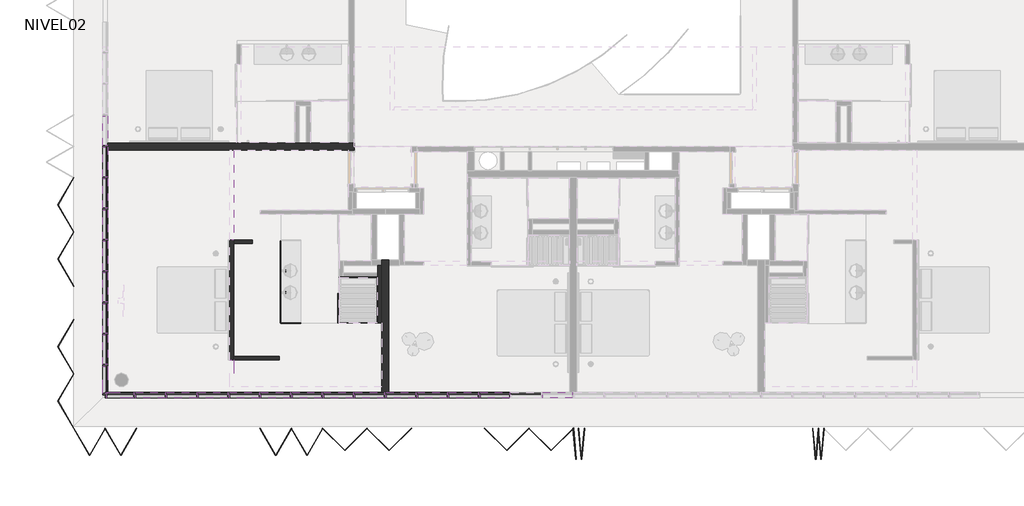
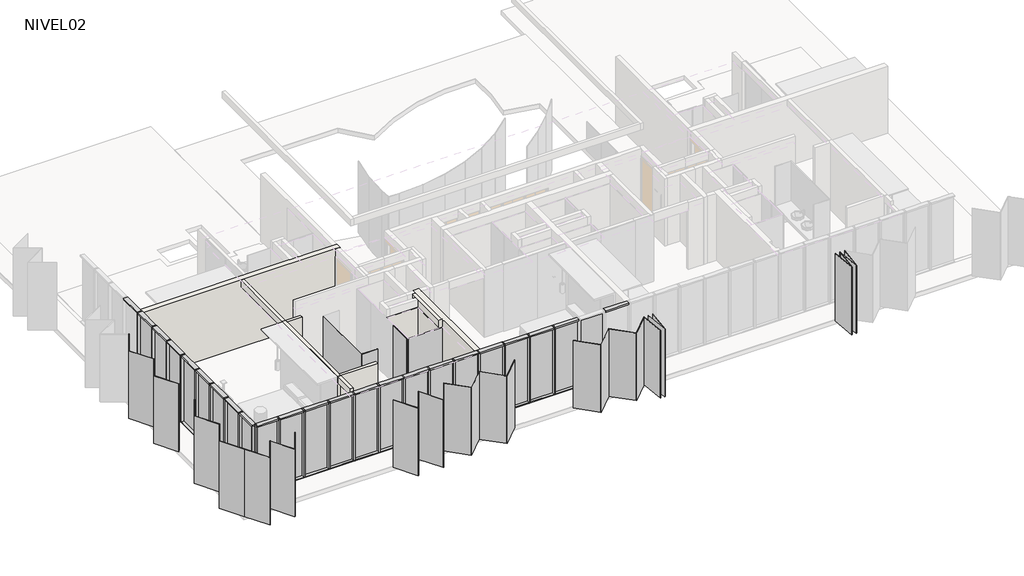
# One storey, part 1 of 9: 66 members, 30 plates, 12 walls.
"""IFC4 building model written with IfcOpenShell, lengths in millimetres."""

from ifc_helpers import new_model, si_unit, frame, origin, place, context, project, spatial, polyline, outline, extrude, faceted_brep, transform, mapped, element, save
from components import rectangular_mullion_50_x_150mm_324a6438, rectangular_mullion_50_x_150mm_d09437e2, rectangular_mullion_50_x_150mm_5dc04e1f, rectangular_mullion_50_x_150mm_33c2bde1, rectangular_mullion_50_x_150mm_da4cfd0d, folding_hd_folding_hd_45_d1567fec, folding_hd_folding_hd_60_f2b0c3be, folding_hd_folding_hd_85_a0ccf00b, plate_e70df11b, panel_corredera_cr_panel_corredera_0e7ff004, system_panel_cr_shower_eca2249b, system_panel_cr_shower_cd40b9b4, system_panel_cr_shower_8ff19449, system_panel_glazed_8b1c2311, system_panel_glazed_b40d16d2, system_panel_glazed_24c908d7, system_panel_glazed_6ccc6dc1

model = new_model("IFC4")

# Units and contexts
model_context = context("Model", 3, world=origin())
ifc_project = project(units=[si_unit("LENGTHUNIT", "METRE", prefix="MILLI")], contexts=[model_context])

# Site, building, storey
site = spatial("IfcSite", under=ifc_project)
building = spatial("IfcBuilding", under=site)
storey = spatial("IfcBuildingStorey", under=building, Name="NIVEL02", Elevation=2500.0)

# Members
placement = place(None, origin())
rectangular_mullion_50_x_150mm_shape = rectangular_mullion_50_x_150mm_324a6438(model_context)
element("IfcMember", 1, ObjectType="Rectangular Mullion : 50 x 150mm", at=placement, inside=storey, context=model_context, shape_type="MappedRepresentation", body=[
    mapped(rectangular_mullion_50_x_150mm_shape, transform((-20633.5934748, -241.0860763, 5050.0), x_axis=(0.0, 0.0, 1.0), y_axis=(-1.0, 0.0, 0.0), z_axis=(0.0, -1.0, 0.0))),
])
element("IfcMember", 2, ObjectType="Rectangular Mullion : 50 x 150mm", at=placement, inside=storey, context=model_context, shape_type="MappedRepresentation", body=[
    mapped(rectangular_mullion_50_x_150mm_shape, transform((-20633.5934748, -1141.0860763, 5050.0), x_axis=(0.0, 0.0, 1.0), y_axis=(-1.0, 0.0, 0.0), z_axis=(0.0, -1.0, 0.0))),
])
element("IfcMember", 3, ObjectType="Rectangular Mullion : 50 x 150mm", at=placement, inside=storey, context=model_context, shape_type="MappedRepresentation", body=[
    mapped(rectangular_mullion_50_x_150mm_shape, transform((-20633.5934748, -2041.0860763, 5050.0), x_axis=(0.0, 0.0, 1.0), y_axis=(-1.0, 0.0, 0.0), z_axis=(0.0, -1.0, 0.0))),
])
element("IfcMember", 4, ObjectType="Rectangular Mullion : 50 x 150mm", at=placement, inside=storey, context=model_context, shape_type="MappedRepresentation", body=[
    mapped(rectangular_mullion_50_x_150mm_shape, transform((-20633.5934748, -2941.0860763, 5050.0), x_axis=(0.0, 0.0, 1.0), y_axis=(-1.0, 0.0, 0.0), z_axis=(0.0, -1.0, 0.0))),
])
element("IfcMember", 5, ObjectType="Rectangular Mullion : 50 x 150mm", at=placement, inside=storey, context=model_context, shape_type="MappedRepresentation", body=[
    mapped(rectangular_mullion_50_x_150mm_shape, transform((-20633.5934748, -3841.0860763, 5050.0), x_axis=(0.0, 0.0, 1.0), y_axis=(-1.0, 0.0, 0.0), z_axis=(0.0, -1.0, 0.0))),
])
element("IfcMember", 6, ObjectType="Rectangular Mullion : 50 x 150mm", at=placement, inside=storey, context=model_context, shape_type="MappedRepresentation", body=[
    mapped(rectangular_mullion_50_x_150mm_shape, transform((-20633.5934748, -4741.0860763, 5050.0), x_axis=(0.0, 0.0, 1.0), y_axis=(-1.0, 0.0, 0.0), z_axis=(0.0, -1.0, 0.0))),
])
element("IfcMember", 7, ObjectType="Rectangular Mullion : 50 x 150mm", at=placement, inside=storey, context=model_context, shape_type="MappedRepresentation", body=[
    mapped(rectangular_mullion_50_x_150mm_shape, transform((-20633.5934748, -5641.0860763, 5050.0), x_axis=(0.0, 0.0, 1.0), y_axis=(-1.0, 0.0, 0.0), z_axis=(0.0, -1.0, 0.0))),
])
element("IfcMember", 8, ObjectType="Rectangular Mullion : 50 x 150mm", at=placement, inside=storey, context=model_context, shape_type="MappedRepresentation", body=[
    mapped(rectangular_mullion_50_x_150mm_shape, transform((-20633.5934748, -6541.0860763, 5050.0), x_axis=(0.0, 0.0, 1.0), y_axis=(-1.0, 0.0, 0.0), z_axis=(0.0, -1.0, 0.0))),
])
element("IfcMember", 9, ObjectType="Rectangular Mullion : 50 x 150mm", at=placement, inside=storey, context=model_context, shape_type="MappedRepresentation", body=[
    mapped(rectangular_mullion_50_x_150mm_shape, transform((-20633.5934748, -291.0860763, 2480.0), x_axis=(0.0, 0.0, -1.0), y_axis=(-1.0, 0.0, 0.0), z_axis=(0.0, 1.0, 0.0))),
])
element("IfcMember", 10, ObjectType="Rectangular Mullion : 50 x 150mm", at=placement, inside=storey, context=model_context, shape_type="MappedRepresentation", body=[
    mapped(rectangular_mullion_50_x_150mm_shape, transform((-20633.5934748, -1191.0860763, 2480.0), x_axis=(0.0, 0.0, -1.0), y_axis=(-1.0, 0.0, 0.0), z_axis=(0.0, 1.0, 0.0))),
])
element("IfcMember", 11, ObjectType="Rectangular Mullion : 50 x 150mm", at=placement, inside=storey, context=model_context, shape_type="MappedRepresentation", body=[
    mapped(rectangular_mullion_50_x_150mm_shape, transform((-20633.5934748, -2091.0860763, 2480.0), x_axis=(0.0, 0.0, -1.0), y_axis=(-1.0, 0.0, 0.0), z_axis=(0.0, 1.0, 0.0))),
])
element("IfcMember", 12, ObjectType="Rectangular Mullion : 50 x 150mm", at=placement, inside=storey, context=model_context, shape_type="MappedRepresentation", body=[
    mapped(rectangular_mullion_50_x_150mm_shape, transform((-20633.5934748, -2991.0860763, 2480.0), x_axis=(0.0, 0.0, -1.0), y_axis=(-1.0, 0.0, 0.0), z_axis=(0.0, 1.0, 0.0))),
])
element("IfcMember", 13, ObjectType="Rectangular Mullion : 50 x 150mm", at=placement, inside=storey, context=model_context, shape_type="MappedRepresentation", body=[
    mapped(rectangular_mullion_50_x_150mm_shape, transform((-20633.5934748, -3891.0860763, 2480.0), x_axis=(0.0, 0.0, -1.0), y_axis=(-1.0, 0.0, 0.0), z_axis=(0.0, 1.0, 0.0))),
])
element("IfcMember", 14, ObjectType="Rectangular Mullion : 50 x 150mm", at=placement, inside=storey, context=model_context, shape_type="MappedRepresentation", body=[
    mapped(rectangular_mullion_50_x_150mm_shape, transform((-20633.5934748, -4791.0860763, 2480.0), x_axis=(0.0, 0.0, -1.0), y_axis=(-1.0, 0.0, 0.0), z_axis=(0.0, 1.0, 0.0))),
])
element("IfcMember", 15, ObjectType="Rectangular Mullion : 50 x 150mm", at=placement, inside=storey, context=model_context, shape_type="MappedRepresentation", body=[
    mapped(rectangular_mullion_50_x_150mm_shape, transform((-20633.5934748, -5691.0860763, 2480.0), x_axis=(0.0, 0.0, -1.0), y_axis=(-1.0, 0.0, 0.0), z_axis=(0.0, 1.0, 0.0))),
])
element("IfcMember", 16, ObjectType="Rectangular Mullion : 50 x 150mm", at=placement, inside=storey, context=model_context, shape_type="MappedRepresentation", body=[
    mapped(rectangular_mullion_50_x_150mm_shape, transform((-8058.5934748, -7416.0860759, 5050.0), x_axis=(0.0, 0.0, 1.0), y_axis=(0.0, 1.0, 0.0), z_axis=(-1.0, 0.0, 0.0))),
])
element("IfcMember", 17, ObjectType="Rectangular Mullion : 50 x 150mm", at=placement, inside=storey, context=model_context, shape_type="MappedRepresentation", body=[
    mapped(rectangular_mullion_50_x_150mm_shape, transform((-9858.5934748, -7416.0860759, 5050.0), x_axis=(0.0, 0.0, 1.0), y_axis=(0.0, 1.0, 0.0), z_axis=(-1.0, 0.0, 0.0))),
])
element("IfcMember", 18, ObjectType="Rectangular Mullion : 50 x 150mm", at=placement, inside=storey, context=model_context, shape_type="MappedRepresentation", body=[
    mapped(rectangular_mullion_50_x_150mm_shape, transform((-10758.5934748, -7416.0860759, 5050.0), x_axis=(0.0, 0.0, 1.0), y_axis=(0.0, 1.0, 0.0), z_axis=(-1.0, 0.0, 0.0))),
])
element("IfcMember", 19, ObjectType="Rectangular Mullion : 50 x 150mm", at=placement, inside=storey, context=model_context, shape_type="MappedRepresentation", body=[
    mapped(rectangular_mullion_50_x_150mm_shape, transform((-11658.5934748, -7416.0860759, 5050.0), x_axis=(0.0, 0.0, 1.0), y_axis=(0.0, 1.0, 0.0), z_axis=(-1.0, 0.0, 0.0))),
])
element("IfcMember", 20, ObjectType="Rectangular Mullion : 50 x 150mm", at=placement, inside=storey, context=model_context, shape_type="MappedRepresentation", body=[
    mapped(rectangular_mullion_50_x_150mm_shape, transform((-12558.5934748, -7416.0860759, 5050.0), x_axis=(0.0, 0.0, 1.0), y_axis=(0.0, 1.0, 0.0), z_axis=(-1.0, 0.0, 0.0))),
])
element("IfcMember", 21, ObjectType="Rectangular Mullion : 50 x 150mm", at=placement, inside=storey, context=model_context, shape_type="MappedRepresentation", body=[
    mapped(rectangular_mullion_50_x_150mm_shape, transform((-13458.5934748, -7416.0860759, 5050.0), x_axis=(0.0, 0.0, 1.0), y_axis=(0.0, 1.0, 0.0), z_axis=(-1.0, 0.0, 0.0))),
])
element("IfcMember", 22, ObjectType="Rectangular Mullion : 50 x 150mm", at=placement, inside=storey, context=model_context, shape_type="MappedRepresentation", body=[
    mapped(rectangular_mullion_50_x_150mm_shape, transform((-14358.5934748, -7416.0860759, 5050.0), x_axis=(0.0, 0.0, 1.0), y_axis=(0.0, 1.0, 0.0), z_axis=(-1.0, 0.0, 0.0))),
])
element("IfcMember", 23, ObjectType="Rectangular Mullion : 50 x 150mm", at=placement, inside=storey, context=model_context, shape_type="MappedRepresentation", body=[
    mapped(rectangular_mullion_50_x_150mm_shape, transform((-15258.5934748, -7416.0860759, 5050.0), x_axis=(0.0, 0.0, 1.0), y_axis=(0.0, 1.0, 0.0), z_axis=(-1.0, 0.0, 0.0))),
])
element("IfcMember", 24, ObjectType="Rectangular Mullion : 50 x 150mm", at=placement, inside=storey, context=model_context, shape_type="MappedRepresentation", body=[
    mapped(rectangular_mullion_50_x_150mm_shape, transform((-16158.5934748, -7416.0860759, 5050.0), x_axis=(0.0, 0.0, 1.0), y_axis=(0.0, 1.0, 0.0), z_axis=(-1.0, 0.0, 0.0))),
])
element("IfcMember", 25, ObjectType="Rectangular Mullion : 50 x 150mm", at=placement, inside=storey, context=model_context, shape_type="MappedRepresentation", body=[
    mapped(rectangular_mullion_50_x_150mm_shape, transform((-17058.5934748, -7416.0860759, 5050.0), x_axis=(0.0, 0.0, 1.0), y_axis=(0.0, 1.0, 0.0), z_axis=(-1.0, 0.0, 0.0))),
])
element("IfcMember", 26, ObjectType="Rectangular Mullion : 50 x 150mm", at=placement, inside=storey, context=model_context, shape_type="MappedRepresentation", body=[
    mapped(rectangular_mullion_50_x_150mm_shape, transform((-17958.5934748, -7416.0860759, 5050.0), x_axis=(0.0, 0.0, 1.0), y_axis=(0.0, 1.0, 0.0), z_axis=(-1.0, 0.0, 0.0))),
])
element("IfcMember", 27, ObjectType="Rectangular Mullion : 50 x 150mm", at=placement, inside=storey, context=model_context, shape_type="MappedRepresentation", body=[
    mapped(rectangular_mullion_50_x_150mm_shape, transform((-18858.5934748, -7416.0860759, 5050.0), x_axis=(0.0, 0.0, 1.0), y_axis=(0.0, 1.0, 0.0), z_axis=(-1.0, 0.0, 0.0))),
])
element("IfcMember", 28, ObjectType="Rectangular Mullion : 50 x 150mm", at=placement, inside=storey, context=model_context, shape_type="MappedRepresentation", body=[
    mapped(rectangular_mullion_50_x_150mm_shape, transform((-19758.5934748, -7416.0860759, 5050.0), x_axis=(0.0, 0.0, 1.0), y_axis=(0.0, 1.0, 0.0), z_axis=(-1.0, 0.0, 0.0))),
])
element("IfcMember", 29, ObjectType="Rectangular Mullion : 50 x 150mm", at=placement, inside=storey, context=model_context, shape_type="MappedRepresentation", body=[
    mapped(rectangular_mullion_50_x_150mm_shape, transform((-9008.5934748, -7416.0860759, 2480.0), x_axis=(0.0, 0.0, -1.0), y_axis=(0.0, 1.0, 0.0), z_axis=(1.0, 0.0, 0.0))),
])
element("IfcMember", 30, ObjectType="Rectangular Mullion : 50 x 150mm", at=placement, inside=storey, context=model_context, shape_type="MappedRepresentation", body=[
    mapped(rectangular_mullion_50_x_150mm_shape, transform((-9908.5934748, -7416.0860759, 2480.0), x_axis=(0.0, 0.0, -1.0), y_axis=(0.0, 1.0, 0.0), z_axis=(1.0, 0.0, 0.0))),
])
element("IfcMember", 31, ObjectType="Rectangular Mullion : 50 x 150mm", at=placement, inside=storey, context=model_context, shape_type="MappedRepresentation", body=[
    mapped(rectangular_mullion_50_x_150mm_shape, transform((-10808.5934748, -7416.0860759, 2480.0), x_axis=(0.0, 0.0, -1.0), y_axis=(0.0, 1.0, 0.0), z_axis=(1.0, 0.0, 0.0))),
])
element("IfcMember", 32, ObjectType="Rectangular Mullion : 50 x 150mm", at=placement, inside=storey, context=model_context, shape_type="MappedRepresentation", body=[
    mapped(rectangular_mullion_50_x_150mm_shape, transform((-11708.5934748, -7416.0860759, 2480.0), x_axis=(0.0, 0.0, -1.0), y_axis=(0.0, 1.0, 0.0), z_axis=(1.0, 0.0, 0.0))),
])
element("IfcMember", 33, ObjectType="Rectangular Mullion : 50 x 150mm", at=placement, inside=storey, context=model_context, shape_type="MappedRepresentation", body=[
    mapped(rectangular_mullion_50_x_150mm_shape, transform((-12608.5934748, -7416.0860759, 2480.0), x_axis=(0.0, 0.0, -1.0), y_axis=(0.0, 1.0, 0.0), z_axis=(1.0, 0.0, 0.0))),
])
element("IfcMember", 34, ObjectType="Rectangular Mullion : 50 x 150mm", at=placement, inside=storey, context=model_context, shape_type="MappedRepresentation", body=[
    mapped(rectangular_mullion_50_x_150mm_shape, transform((-13508.5934748, -7416.0860759, 2480.0), x_axis=(0.0, 0.0, -1.0), y_axis=(0.0, 1.0, 0.0), z_axis=(1.0, 0.0, 0.0))),
])
element("IfcMember", 35, ObjectType="Rectangular Mullion : 50 x 150mm", at=placement, inside=storey, context=model_context, shape_type="MappedRepresentation", body=[
    mapped(rectangular_mullion_50_x_150mm_shape, transform((-14408.5934748, -7416.0860759, 2480.0), x_axis=(0.0, 0.0, -1.0), y_axis=(0.0, 1.0, 0.0), z_axis=(1.0, 0.0, 0.0))),
])
element("IfcMember", 36, ObjectType="Rectangular Mullion : 50 x 150mm", at=placement, inside=storey, context=model_context, shape_type="MappedRepresentation", body=[
    mapped(rectangular_mullion_50_x_150mm_shape, transform((-15308.5934748, -7416.0860759, 2480.0), x_axis=(0.0, 0.0, -1.0), y_axis=(0.0, 1.0, 0.0), z_axis=(1.0, 0.0, 0.0))),
])
element("IfcMember", 37, ObjectType="Rectangular Mullion : 50 x 150mm", at=placement, inside=storey, context=model_context, shape_type="MappedRepresentation", body=[
    mapped(rectangular_mullion_50_x_150mm_shape, transform((-16208.5934748, -7416.0860759, 2480.0), x_axis=(0.0, 0.0, -1.0), y_axis=(0.0, 1.0, 0.0), z_axis=(1.0, 0.0, 0.0))),
])
element("IfcMember", 38, ObjectType="Rectangular Mullion : 50 x 150mm", at=placement, inside=storey, context=model_context, shape_type="MappedRepresentation", body=[
    mapped(rectangular_mullion_50_x_150mm_shape, transform((-17108.5934748, -7416.0860759, 2480.0), x_axis=(0.0, 0.0, -1.0), y_axis=(0.0, 1.0, 0.0), z_axis=(1.0, 0.0, 0.0))),
])
element("IfcMember", 39, ObjectType="Rectangular Mullion : 50 x 150mm", at=placement, inside=storey, context=model_context, shape_type="MappedRepresentation", body=[
    mapped(rectangular_mullion_50_x_150mm_shape, transform((-18008.5934748, -7416.0860759, 2480.0), x_axis=(0.0, 0.0, -1.0), y_axis=(0.0, 1.0, 0.0), z_axis=(1.0, 0.0, 0.0))),
])
element("IfcMember", 40, ObjectType="Rectangular Mullion : 50 x 150mm", at=placement, inside=storey, context=model_context, shape_type="MappedRepresentation", body=[
    mapped(rectangular_mullion_50_x_150mm_shape, transform((-18908.5934748, -7416.0860759, 2480.0), x_axis=(0.0, 0.0, -1.0), y_axis=(0.0, 1.0, 0.0), z_axis=(1.0, 0.0, 0.0))),
])
rectangular_mullion_50_x_150mm_2_shape = rectangular_mullion_50_x_150mm_d09437e2(model_context)
element("IfcMember", 41, ObjectType="Rectangular Mullion : 50 x 150mm", at=placement, inside=storey, context=model_context, shape_type="MappedRepresentation", body=[
    mapped(rectangular_mullion_50_x_150mm_2_shape, transform((-20633.5934748, -7366.0860759, 5050.0), x_axis=(0.0, 0.0, 1.0), y_axis=(-1.0, 0.0, 0.0), z_axis=(0.0, -1.0, 0.0))),
])
element("IfcMember", 42, ObjectType="Rectangular Mullion : 50 x 150mm", at=placement, inside=storey, context=model_context, shape_type="MappedRepresentation", body=[
    mapped(rectangular_mullion_50_x_150mm_2_shape, transform((-20633.5934748, -6591.0860763, 2480.0), x_axis=(0.0, 0.0, -1.0), y_axis=(-1.0, 0.0, 0.0), z_axis=(0.0, 1.0, 0.0))),
])
rectangular_mullion_50_x_150mm_3_shape = rectangular_mullion_50_x_150mm_5dc04e1f(model_context)
element("IfcMember", 43, ObjectType="Rectangular Mullion : 50 x 150mm", at=placement, inside=storey, context=model_context, shape_type="MappedRepresentation", body=[
    mapped(rectangular_mullion_50_x_150mm_3_shape, transform((-20583.5934748, -7416.0860759, 5050.0), x_axis=(0.0, 0.0, 1.0), y_axis=(0.0, 1.0, 0.0), z_axis=(-1.0, 0.0, 0.0))),
])
element("IfcMember", 44, ObjectType="Rectangular Mullion : 50 x 150mm", at=placement, inside=storey, context=model_context, shape_type="MappedRepresentation", body=[
    mapped(rectangular_mullion_50_x_150mm_3_shape, transform((-19808.5934748, -7416.0860759, 2480.0), x_axis=(0.0, 0.0, -1.0), y_axis=(0.0, 1.0, 0.0), z_axis=(1.0, 0.0, 0.0))),
])
rectangular_mullion_50_x_150mm_4_shape = rectangular_mullion_50_x_150mm_33c2bde1(model_context)
element("IfcMember", 45, ObjectType="Rectangular Mullion : 50 x 150mm", at=placement, inside=storey, context=model_context, shape_type="MappedRepresentation", body=[
    mapped(rectangular_mullion_50_x_150mm_4_shape, transform((-20633.5934748, -266.0860763, 2480.0), x_axis=(0.0, -1.0, 0.0), y_axis=(-1.0, 0.0, 0.0), z_axis=(0.0, 0.0, -1.0))),
])
element("IfcMember", 46, ObjectType="Rectangular Mullion : 50 x 150mm", at=placement, inside=storey, context=model_context, shape_type="MappedRepresentation", body=[
    mapped(rectangular_mullion_50_x_150mm_4_shape, transform((-20633.5934748, -1166.0860763, 2480.0), x_axis=(0.0, -1.0, 0.0), y_axis=(-1.0, 0.0, 0.0), z_axis=(0.0, 0.0, -1.0))),
])
element("IfcMember", 47, ObjectType="Rectangular Mullion : 50 x 150mm", at=placement, inside=storey, context=model_context, shape_type="MappedRepresentation", body=[
    mapped(rectangular_mullion_50_x_150mm_4_shape, transform((-20633.5934748, -2066.0860763, 2480.0), x_axis=(0.0, -1.0, 0.0), y_axis=(-1.0, 0.0, 0.0), z_axis=(0.0, 0.0, -1.0))),
])
element("IfcMember", 48, ObjectType="Rectangular Mullion : 50 x 150mm", at=placement, inside=storey, context=model_context, shape_type="MappedRepresentation", body=[
    mapped(rectangular_mullion_50_x_150mm_4_shape, transform((-20633.5934748, -2966.0860763, 2480.0), x_axis=(0.0, -1.0, 0.0), y_axis=(-1.0, 0.0, 0.0), z_axis=(0.0, 0.0, -1.0))),
])
element("IfcMember", 49, ObjectType="Rectangular Mullion : 50 x 150mm", at=placement, inside=storey, context=model_context, shape_type="MappedRepresentation", body=[
    mapped(rectangular_mullion_50_x_150mm_4_shape, transform((-20633.5934748, -3866.0860763, 2480.0), x_axis=(0.0, -1.0, 0.0), y_axis=(-1.0, 0.0, 0.0), z_axis=(0.0, 0.0, -1.0))),
])
element("IfcMember", 50, ObjectType="Rectangular Mullion : 50 x 150mm", at=placement, inside=storey, context=model_context, shape_type="MappedRepresentation", body=[
    mapped(rectangular_mullion_50_x_150mm_4_shape, transform((-20633.5934748, -4766.0860763, 2480.0), x_axis=(0.0, -1.0, 0.0), y_axis=(-1.0, 0.0, 0.0), z_axis=(0.0, 0.0, -1.0))),
])
element("IfcMember", 51, ObjectType="Rectangular Mullion : 50 x 150mm", at=placement, inside=storey, context=model_context, shape_type="MappedRepresentation", body=[
    mapped(rectangular_mullion_50_x_150mm_4_shape, transform((-20633.5934748, -5666.0860763, 2480.0), x_axis=(0.0, -1.0, 0.0), y_axis=(-1.0, 0.0, 0.0), z_axis=(0.0, 0.0, -1.0))),
])
element("IfcMember", 52, ObjectType="Rectangular Mullion : 50 x 150mm", at=placement, inside=storey, context=model_context, shape_type="MappedRepresentation", body=[
    mapped(rectangular_mullion_50_x_150mm_4_shape, transform((-20633.5934748, -6566.0860763, 2480.0), x_axis=(0.0, -1.0, 0.0), y_axis=(-1.0, 0.0, 0.0), z_axis=(0.0, 0.0, -1.0))),
])
rectangular_mullion_50_x_150mm_5_shape = rectangular_mullion_50_x_150mm_da4cfd0d(model_context)
element("IfcMember", 53, ObjectType="Rectangular Mullion : 50 x 150mm", at=placement, inside=storey, context=model_context, shape_type="MappedRepresentation", body=[
    mapped(rectangular_mullion_50_x_150mm_5_shape, transform((-20633.5934748, -7416.0860759, 2480.0), x_axis=(0.0, -1.0, 0.0), y_axis=(-1.0, 0.0, 0.0), z_axis=(0.0, 0.0, -1.0))),
])
element("IfcMember", 54, ObjectType="Rectangular Mullion : 50 x 150mm", at=placement, inside=storey, context=model_context, shape_type="MappedRepresentation", body=[
    mapped(rectangular_mullion_50_x_150mm_4_shape, transform((-9883.5934748, -7416.0860759, 2480.0), x_axis=(-1.0, 0.0, 0.0), y_axis=(0.0, 1.0, 0.0), z_axis=(0.0, 0.0, -1.0))),
])
element("IfcMember", 55, ObjectType="Rectangular Mullion : 50 x 150mm", at=placement, inside=storey, context=model_context, shape_type="MappedRepresentation", body=[
    mapped(rectangular_mullion_50_x_150mm_4_shape, transform((-10783.5934748, -7416.0860759, 2480.0), x_axis=(-1.0, 0.0, 0.0), y_axis=(0.0, 1.0, 0.0), z_axis=(0.0, 0.0, -1.0))),
])
element("IfcMember", 56, ObjectType="Rectangular Mullion : 50 x 150mm", at=placement, inside=storey, context=model_context, shape_type="MappedRepresentation", body=[
    mapped(rectangular_mullion_50_x_150mm_4_shape, transform((-11683.5934748, -7416.0860759, 2480.0), x_axis=(-1.0, 0.0, 0.0), y_axis=(0.0, 1.0, 0.0), z_axis=(0.0, 0.0, -1.0))),
])
element("IfcMember", 57, ObjectType="Rectangular Mullion : 50 x 150mm", at=placement, inside=storey, context=model_context, shape_type="MappedRepresentation", body=[
    mapped(rectangular_mullion_50_x_150mm_4_shape, transform((-12583.5934748, -7416.0860759, 2480.0), x_axis=(-1.0, 0.0, 0.0), y_axis=(0.0, 1.0, 0.0), z_axis=(0.0, 0.0, -1.0))),
])
element("IfcMember", 58, ObjectType="Rectangular Mullion : 50 x 150mm", at=placement, inside=storey, context=model_context, shape_type="MappedRepresentation", body=[
    mapped(rectangular_mullion_50_x_150mm_4_shape, transform((-13483.5934748, -7416.0860759, 2480.0), x_axis=(-1.0, 0.0, 0.0), y_axis=(0.0, 1.0, 0.0), z_axis=(0.0, 0.0, -1.0))),
])
element("IfcMember", 59, ObjectType="Rectangular Mullion : 50 x 150mm", at=placement, inside=storey, context=model_context, shape_type="MappedRepresentation", body=[
    mapped(rectangular_mullion_50_x_150mm_4_shape, transform((-14383.5934748, -7416.0860759, 2480.0), x_axis=(-1.0, 0.0, 0.0), y_axis=(0.0, 1.0, 0.0), z_axis=(0.0, 0.0, -1.0))),
])
element("IfcMember", 60, ObjectType="Rectangular Mullion : 50 x 150mm", at=placement, inside=storey, context=model_context, shape_type="MappedRepresentation", body=[
    mapped(rectangular_mullion_50_x_150mm_4_shape, transform((-15283.5934748, -7416.0860759, 2480.0), x_axis=(-1.0, 0.0, 0.0), y_axis=(0.0, 1.0, 0.0), z_axis=(0.0, 0.0, -1.0))),
])
element("IfcMember", 61, ObjectType="Rectangular Mullion : 50 x 150mm", at=placement, inside=storey, context=model_context, shape_type="MappedRepresentation", body=[
    mapped(rectangular_mullion_50_x_150mm_4_shape, transform((-16183.5934748, -7416.0860759, 2480.0), x_axis=(-1.0, 0.0, 0.0), y_axis=(0.0, 1.0, 0.0), z_axis=(0.0, 0.0, -1.0))),
])
element("IfcMember", 62, ObjectType="Rectangular Mullion : 50 x 150mm", at=placement, inside=storey, context=model_context, shape_type="MappedRepresentation", body=[
    mapped(rectangular_mullion_50_x_150mm_4_shape, transform((-17083.5934748, -7416.0860759, 2480.0), x_axis=(-1.0, 0.0, 0.0), y_axis=(0.0, 1.0, 0.0), z_axis=(0.0, 0.0, -1.0))),
])
element("IfcMember", 63, ObjectType="Rectangular Mullion : 50 x 150mm", at=placement, inside=storey, context=model_context, shape_type="MappedRepresentation", body=[
    mapped(rectangular_mullion_50_x_150mm_4_shape, transform((-17983.5934748, -7416.0860759, 2480.0), x_axis=(-1.0, 0.0, 0.0), y_axis=(0.0, 1.0, 0.0), z_axis=(0.0, 0.0, -1.0))),
])
element("IfcMember", 64, ObjectType="Rectangular Mullion : 50 x 150mm", at=placement, inside=storey, context=model_context, shape_type="MappedRepresentation", body=[
    mapped(rectangular_mullion_50_x_150mm_4_shape, transform((-18883.5934748, -7416.0860759, 2480.0), x_axis=(-1.0, 0.0, 0.0), y_axis=(0.0, 1.0, 0.0), z_axis=(0.0, 0.0, -1.0))),
])
element("IfcMember", 65, ObjectType="Rectangular Mullion : 50 x 150mm", at=placement, inside=storey, context=model_context, shape_type="MappedRepresentation", body=[
    mapped(rectangular_mullion_50_x_150mm_4_shape, transform((-19783.5934748, -7416.0860759, 2480.0), x_axis=(-1.0, 0.0, 0.0), y_axis=(0.0, 1.0, 0.0), z_axis=(0.0, 0.0, -1.0))),
])
element("IfcMember", 66, ObjectType="Rectangular Mullion : 50 x 150mm", at=placement, inside=storey, context=model_context, shape_type="MappedRepresentation", body=[
    mapped(rectangular_mullion_50_x_150mm_5_shape, transform((-20633.5934748, -7416.0860759, 2480.0), x_axis=(-1.0, 0.0, 0.0), y_axis=(0.0, 1.0, 0.0), z_axis=(0.0, 0.0, -1.0))),
])

# Plates
folding_hd_folding_hd_45_shape = folding_hd_folding_hd_45_d1567fec(model_context)
element("IfcPlate", 67, ObjectType="FOLDING HD : FOLDING HD 45", at=placement, inside=storey, context=model_context, shape_type="MappedRepresentation", body=[
    mapped(folding_hd_folding_hd_45_shape, transform((-10783.5934748, -8366.0860759, 2480.0), x_axis=(-1.0, 0.0, 0.0), y_axis=(0.0, -1.0, 0.0), z_axis=(0.0, 0.0, 1.0))),
])
folding_hd_folding_hd_60_shape = folding_hd_folding_hd_60_f2b0c3be(model_context)
element("IfcPlate", 68, ObjectType="FOLDING HD : FOLDING HD 60", at=placement, inside=storey, context=model_context, shape_type="MappedRepresentation", body=[
    mapped(folding_hd_folding_hd_60_shape, transform((-17958.5934748, -8366.0860759, 2480.0), x_axis=(-1.0, 0.0, 0.0), y_axis=(0.0, -1.0, 0.0), z_axis=(0.0, 0.0, 1.0))),
])
folding_hd_folding_hd_85_shape = folding_hd_folding_hd_85_a0ccf00b(model_context)
element("IfcPlate", 69, ObjectType="FOLDING HD : FOLDING HD 85", at=placement, inside=storey, context=model_context, shape_type="MappedRepresentation", body=[
    mapped(folding_hd_folding_hd_85_shape, transform((-3583.5934748, -8366.0860759, 2480.0), x_axis=(-1.0, 0.0, 0.0), y_axis=(0.0, -1.0, 0.0), z_axis=(0.0, 0.0, 1.0))),
])
plate_shape = plate_e70df11b(model_context)
element("IfcPlate", 70, ObjectType="FOLDING HD : FOLDING HD-90_30\"", at=placement, inside=storey, context=model_context, shape_type="MappedRepresentation", body=[
    mapped(plate_shape, transform((-21533.5934748, -4766.0860759, 2480.0), x_axis=(0.0, -1.0, 0.0), y_axis=(1.0, 0.0, 0.0), z_axis=(0.0, 0.0, 1.0))),
])
panel_corredera_cr_panel_corredera_shape = panel_corredera_cr_panel_corredera_0e7ff004(model_context)
element("IfcPlate", 71, ObjectType="PANEL CORREDERA : CR_PANEL CORREDERA", at=placement, inside=storey, context=model_context, shape_type="MappedRepresentation", body=[
    mapped(panel_corredera_cr_panel_corredera_shape, transform((-13913.6434748, -4991.5697221, 2500.0), x_axis=(0.0, 1.0, 0.0), y_axis=(-1.0, 0.0, 0.0), z_axis=(0.0, 0.0, 1.0))),
])
system_panel_cr_shower_shape = system_panel_cr_shower_eca2249b(model_context)
element("IfcPlate", 72, ObjectType="System Panel : CR-SHOWER", at=placement, inside=storey, context=model_context, shape_type="MappedRepresentation", body=[
    mapped(system_panel_cr_shower_shape, transform((-13298.6184748, -5336.1362189, 2500.0), x_axis=(-1.0, 0.0, 0.0), y_axis=(0.0, -1.0, 0.0), z_axis=(0.0, 0.0, 1.0))),
])
system_panel_cr_shower_2_shape = system_panel_cr_shower_cd40b9b4(model_context)
element("IfcPlate", 73, ObjectType="System Panel : CR-SHOWER", at=placement, inside=storey, context=model_context, shape_type="MappedRepresentation", body=[
    mapped(system_panel_cr_shower_2_shape, transform((-15593.5934748, -4164.8462541, 2500.0), x_axis=(0.0, 1.0, 0.0), y_axis=(-1.0, 0.0, 0.0), z_axis=(0.0, 0.0, 1.0))),
])
system_panel_cr_shower_3_shape = system_panel_cr_shower_8ff19449(model_context)
element("IfcPlate", 74, ObjectType="System Panel : CR-SHOWER", at=placement, inside=storey, context=model_context, shape_type="MappedRepresentation", body=[
    mapped(system_panel_cr_shower_3_shape, transform((-15303.5934748, -5348.5862189, 2500.0), x_axis=(-1.0, 0.0, 0.0), y_axis=(0.0, -1.0, 0.0), z_axis=(0.0, 0.0, 1.0))),
])
system_panel_glazed_shape = system_panel_glazed_8b1c2311(model_context)
element("IfcPlate", 75, ObjectType="System Panel : Glazed", at=placement, inside=storey, context=model_context, shape_type="MappedRepresentation", body=[
    mapped(system_panel_glazed_shape, transform((-20633.5934748, -716.0860763, 2530.0), x_axis=(0.0, -1.0, 0.0), y_axis=(1.0, 0.0, 0.0), z_axis=(0.0, 0.0, 1.0))),
])
element("IfcPlate", 76, ObjectType="System Panel : Glazed", at=placement, inside=storey, context=model_context, shape_type="MappedRepresentation", body=[
    mapped(system_panel_glazed_shape, transform((-20633.5934748, -1616.0860763, 2530.0), x_axis=(0.0, -1.0, 0.0), y_axis=(1.0, 0.0, 0.0), z_axis=(0.0, 0.0, 1.0))),
])
element("IfcPlate", 77, ObjectType="System Panel : Glazed", at=placement, inside=storey, context=model_context, shape_type="MappedRepresentation", body=[
    mapped(system_panel_glazed_shape, transform((-20633.5934748, -2516.0860763, 2530.0), x_axis=(0.0, -1.0, 0.0), y_axis=(1.0, 0.0, 0.0), z_axis=(0.0, 0.0, 1.0))),
])
element("IfcPlate", 78, ObjectType="System Panel : Glazed", at=placement, inside=storey, context=model_context, shape_type="MappedRepresentation", body=[
    mapped(system_panel_glazed_shape, transform((-20633.5934748, -3416.0860763, 2530.0), x_axis=(0.0, -1.0, 0.0), y_axis=(1.0, 0.0, 0.0), z_axis=(0.0, 0.0, 1.0))),
])
element("IfcPlate", 79, ObjectType="System Panel : Glazed", at=placement, inside=storey, context=model_context, shape_type="MappedRepresentation", body=[
    mapped(system_panel_glazed_shape, transform((-20633.5934748, -4316.0860763, 2530.0), x_axis=(0.0, -1.0, 0.0), y_axis=(1.0, 0.0, 0.0), z_axis=(0.0, 0.0, 1.0))),
])
element("IfcPlate", 80, ObjectType="System Panel : Glazed", at=placement, inside=storey, context=model_context, shape_type="MappedRepresentation", body=[
    mapped(system_panel_glazed_shape, transform((-20633.5934748, -5216.0860763, 2530.0), x_axis=(0.0, -1.0, 0.0), y_axis=(1.0, 0.0, 0.0), z_axis=(0.0, 0.0, 1.0))),
])
element("IfcPlate", 81, ObjectType="System Panel : Glazed", at=placement, inside=storey, context=model_context, shape_type="MappedRepresentation", body=[
    mapped(system_panel_glazed_shape, transform((-20633.5934748, -6116.0860763, 2530.0), x_axis=(0.0, -1.0, 0.0), y_axis=(1.0, 0.0, 0.0), z_axis=(0.0, 0.0, 1.0))),
])
system_panel_glazed_2_shape = system_panel_glazed_b40d16d2(model_context)
element("IfcPlate", 82, ObjectType="System Panel : Glazed", at=placement, inside=storey, context=model_context, shape_type="MappedRepresentation", body=[
    mapped(system_panel_glazed_2_shape, transform((-20633.5934748, -6978.5860761, 2530.0), x_axis=(0.0, -1.0, 0.0), y_axis=(1.0, 0.0, 0.0), z_axis=(0.0, 0.0, 1.0))),
])
system_panel_glazed_3_shape = system_panel_glazed_24c908d7(model_context)
element("IfcPlate", 83, ObjectType="System Panel : Glazed", at=placement, inside=storey, context=model_context, shape_type="MappedRepresentation", body=[
    mapped(system_panel_glazed_3_shape, transform((-20196.0934748, -7416.0860759, 2530.0), x_axis=(-1.0, 0.0, 0.0), y_axis=(0.0, -1.0, 0.0), z_axis=(0.0, 0.0, 1.0))),
])
system_panel_glazed_4_shape = system_panel_glazed_6ccc6dc1(model_context)
element("IfcPlate", 84, ObjectType="System Panel : Glazed", at=placement, inside=storey, context=model_context, shape_type="MappedRepresentation", body=[
    mapped(system_panel_glazed_4_shape, transform((-8533.5934748, -7416.0860759, 2530.0), x_axis=(-1.0, 0.0, 0.0), y_axis=(0.0, -1.0, 0.0), z_axis=(0.0, 0.0, 1.0))),
])
element("IfcPlate", 85, ObjectType="System Panel : Glazed", at=placement, inside=storey, context=model_context, shape_type="MappedRepresentation", body=[
    mapped(system_panel_glazed_4_shape, transform((-9433.5934748, -7416.0860759, 2530.0), x_axis=(-1.0, 0.0, 0.0), y_axis=(0.0, -1.0, 0.0), z_axis=(0.0, 0.0, 1.0))),
])
element("IfcPlate", 86, ObjectType="System Panel : Glazed", at=placement, inside=storey, context=model_context, shape_type="MappedRepresentation", body=[
    mapped(system_panel_glazed_4_shape, transform((-10333.5934748, -7416.0860759, 2530.0), x_axis=(-1.0, 0.0, 0.0), y_axis=(0.0, -1.0, 0.0), z_axis=(0.0, 0.0, 1.0))),
])
element("IfcPlate", 87, ObjectType="System Panel : Glazed", at=placement, inside=storey, context=model_context, shape_type="MappedRepresentation", body=[
    mapped(system_panel_glazed_4_shape, transform((-11233.5934748, -7416.0860759, 2530.0), x_axis=(-1.0, 0.0, 0.0), y_axis=(0.0, -1.0, 0.0), z_axis=(0.0, 0.0, 1.0))),
])
element("IfcPlate", 88, ObjectType="System Panel : Glazed", at=placement, inside=storey, context=model_context, shape_type="MappedRepresentation", body=[
    mapped(system_panel_glazed_4_shape, transform((-12133.5934748, -7416.0860759, 2530.0), x_axis=(-1.0, 0.0, 0.0), y_axis=(0.0, -1.0, 0.0), z_axis=(0.0, 0.0, 1.0))),
])
element("IfcPlate", 89, ObjectType="System Panel : Glazed", at=placement, inside=storey, context=model_context, shape_type="MappedRepresentation", body=[
    mapped(system_panel_glazed_4_shape, transform((-13033.5934748, -7416.0860759, 2530.0), x_axis=(-1.0, 0.0, 0.0), y_axis=(0.0, -1.0, 0.0), z_axis=(0.0, 0.0, 1.0))),
])
element("IfcPlate", 90, ObjectType="System Panel : Glazed", at=placement, inside=storey, context=model_context, shape_type="MappedRepresentation", body=[
    mapped(system_panel_glazed_4_shape, transform((-13933.5934748, -7416.0860759, 2530.0), x_axis=(-1.0, 0.0, 0.0), y_axis=(0.0, -1.0, 0.0), z_axis=(0.0, 0.0, 1.0))),
])
element("IfcPlate", 91, ObjectType="System Panel : Glazed", at=placement, inside=storey, context=model_context, shape_type="MappedRepresentation", body=[
    mapped(system_panel_glazed_4_shape, transform((-14833.5934748, -7416.0860759, 2530.0), x_axis=(-1.0, 0.0, 0.0), y_axis=(0.0, -1.0, 0.0), z_axis=(0.0, 0.0, 1.0))),
])
element("IfcPlate", 92, ObjectType="System Panel : Glazed", at=placement, inside=storey, context=model_context, shape_type="MappedRepresentation", body=[
    mapped(system_panel_glazed_4_shape, transform((-15733.5934748, -7416.0860759, 2530.0), x_axis=(-1.0, 0.0, 0.0), y_axis=(0.0, -1.0, 0.0), z_axis=(0.0, 0.0, 1.0))),
])
element("IfcPlate", 93, ObjectType="System Panel : Glazed", at=placement, inside=storey, context=model_context, shape_type="MappedRepresentation", body=[
    mapped(system_panel_glazed_4_shape, transform((-16633.5934748, -7416.0860759, 2530.0), x_axis=(-1.0, 0.0, 0.0), y_axis=(0.0, -1.0, 0.0), z_axis=(0.0, 0.0, 1.0))),
])
element("IfcPlate", 94, ObjectType="System Panel : Glazed", at=placement, inside=storey, context=model_context, shape_type="MappedRepresentation", body=[
    mapped(system_panel_glazed_4_shape, transform((-17533.5934748, -7416.0860759, 2530.0), x_axis=(-1.0, 0.0, 0.0), y_axis=(0.0, -1.0, 0.0), z_axis=(0.0, 0.0, 1.0))),
])
element("IfcPlate", 95, ObjectType="System Panel : Glazed", at=placement, inside=storey, context=model_context, shape_type="MappedRepresentation", body=[
    mapped(system_panel_glazed_4_shape, transform((-18433.5934748, -7416.0860759, 2530.0), x_axis=(-1.0, 0.0, 0.0), y_axis=(0.0, -1.0, 0.0), z_axis=(0.0, 0.0, 1.0))),
])
element("IfcPlate", 96, ObjectType="System Panel : Glazed", at=placement, inside=storey, context=model_context, shape_type="MappedRepresentation", body=[
    mapped(system_panel_glazed_4_shape, transform((-19333.5934748, -7416.0860759, 2530.0), x_axis=(-1.0, 0.0, 0.0), y_axis=(0.0, -1.0, 0.0), z_axis=(0.0, 0.0, 1.0))),
])

# Walls
element("IfcWall", 97, ObjectType="SCV.TI.A.110.090.143.47.1", at=placement, inside=storey, context=model_context, shape_type="SweptSolid", body=[
    extrude(outline(polyline([(-16943.5934748, -2951.0658633), (-16402.4831576, -2951.0658633), (-16402.4831576, -3061.0658633), (-16943.5934748, -3061.0658633), (-16943.5934748, -2951.0658633)])), frame((0.0, 0.0, 2480.0), z_axis=(0.0, 0.0, 1.0), x_axis=(1.0, 0.0, 0.0)), (0.0, 0.0, 1.0), 2570.0),
])
element("IfcWall", 98, ObjectType="SCV.TI.A.110.090.143.47.1", at=placement, inside=storey, context=model_context, shape_type="Brep", body=[
    faceted_brep([(-16943.5934748, -6411.0658633, 5050.0), (-16943.5934748, -6411.0658633, 4750.0), (-16943.5934748, -6411.0658633, 2480.0), (-16943.5934748, -6301.0658633, 2480.0), (-16943.5934748, -3061.0658633, 2480.0), (-16943.5934748, -2951.0658633, 2480.0), (-16943.5934748, -2951.0658633, 4750.0), (-16943.5934748, -2951.0658633, 5050.0), (-16943.5934748, -3061.0658633, 5050.0), (-16943.5934748, -6301.0658633, 5050.0), (-17053.5934748, -6411.0658633, 2480.0), (-17053.5934748, -6411.0658633, 4750.0), (-17053.5934748, -6411.0658633, 5050.0), (-17053.5934748, -2951.0658633, 5050.0), (-17053.5934748, -2951.0658633, 4750.0), (-17053.5934748, -2951.0658633, 2480.0)], [[[0, 1, 2, 3, 4, 5, 6, 7, 8, 9]], [[10, 11, 12, 13, 14, 15]], [[5, 4, 3, 2, 10, 15]], [[0, 9, 8, 7, 13, 12]], [[5, 15, 14, 13, 7, 6]], [[0, 12, 11, 10, 2, 1]]]),
])
element("IfcWall", 99, ObjectType="SCV.TI.A.110.090.143.47.1", at=placement, inside=storey, context=model_context, shape_type="SweptSolid", body=[
    extrude(outline(polyline([(-16943.5934748, -6301.0658633), (-15624.9331576, -6301.0658633), (-15624.9331576, -6411.0658633), (-16943.5934748, -6411.0658633), (-16943.5934748, -6301.0658633)])), frame((0.0, 0.0, 2480.0), z_axis=(0.0, 0.0, 1.0), x_axis=(1.0, 0.0, 0.0)), (0.0, 0.0, 1.0), 2570.0),
])
element("IfcWall", 100, ObjectType="REV-PORCELANATO_60*60", at=placement, inside=storey, context=model_context, shape_type="Brep", body=[
    faceted_brep([(-12803.5934748, -5336.1362189, 2500.0), (-12803.5934748, -4026.0862189, 2500.0), (-12803.5934748, -4026.0862189, 4760.0), (-12803.5934748, -5336.1362189, 4760.0), (-12813.5934748, -5336.1362189, 2500.0), (-12813.5934748, -5336.1362189, 4760.0), (-12813.5934748, -4036.0862189, 4760.0), (-12813.5934748, -4026.0862189, 4760.0), (-12813.5934748, -4026.0862189, 2500.0), (-12813.5934748, -4036.0862189, 2500.0)], [[[0, 1, 2, 3]], [[4, 5, 6, 7, 8, 9]], [[1, 0, 4, 9, 8]], [[3, 2, 7, 6, 5]], [[0, 3, 5, 4]], [[2, 1, 8, 7]]]),
])
element("IfcWall", 101, ObjectType="REV-PORCELANATO_60*60", at=placement, inside=storey, context=model_context, shape_type="SweptSolid", body=[
    extrude(outline(polyline([(-13913.6434748, -4026.0862189), (-12813.5934748, -4026.0862189), (-12813.5934748, -4036.0862189), (-13913.6434748, -4036.0862189), (-13913.6434748, -4026.0862189)])), frame((0.0, 0.0, 2500.0), z_axis=(0.0, 0.0, 1.0), x_axis=(1.0, 0.0, 0.0)), (0.0, 0.0, 1.0), 2260.0),
])
element("IfcWall", 102, ObjectType="SCV.TI.A.110.090.143.47.1 2", at=placement, inside=storey, context=model_context, shape_type="SweptSolid", body=[
    extrude(outline(polyline([(-16943.5934748, -366.0860759), (-16943.5934748, -2951.0658633), (-17053.5934748, -2951.0658633), (-17053.5934748, -366.0860759), (-16943.5934748, -366.0860759)])), frame((0.0, 0.0, 4805.0), z_axis=(0.0, 0.0, 1.0), x_axis=(1.0, 0.0, 0.0)), (0.0, 0.0, 1.0), 245.0),
])
element("IfcWall", 103, ObjectType="SCV.TI.A.110.090.143.47.1 2", at=placement, inside=storey, context=model_context, shape_type="SweptSolid", body=[
    extrude(outline(polyline([(-16943.5934748, -6411.0658633), (-16943.5934748, -7185.2015033), (-17053.5934748, -7185.2015033), (-17053.5934748, -6411.0658633), (-16943.5934748, -6411.0658633)])), frame((0.0, 0.0, 4805.0), z_axis=(0.0, 0.0, 1.0), x_axis=(1.0, 0.0, 0.0)), (0.0, 0.0, 1.0), 245.0),
])
element("IfcWall", 104, ObjectType="SCV.TI.A.120.120.122.46.2", at=placement, inside=storey, context=model_context, shape_type="Brep", body=[
    faceted_brep([(-12803.5934748, -3686.0862189, 2480.0), (-12803.5934748, -3906.0862189, 2480.0), (-12803.5934748, -4026.0862189, 2480.0), (-12803.5934748, -5336.1362189, 2480.0), (-12803.5934748, -5336.1362189, 5050.0), (-12803.5934748, -4026.0862189, 5050.0), (-12803.5934748, -3906.0862189, 5050.0), (-12803.5934748, -3686.0862189, 5050.0), (-12683.5934748, -3686.0862189, 2480.0), (-12683.5934748, -3686.0862189, 5050.0), (-12683.5934748, -5336.1362189, 5050.0), (-12683.5934748, -5336.1362189, 2480.0)], [[[0, 1, 2, 3, 4, 5, 6, 7]], [[8, 9, 10, 11]], [[3, 2, 1, 0, 8, 11]], [[4, 3, 11, 10]], [[7, 6, 5, 4, 10, 9]], [[0, 7, 9, 8]]]),
])
element("IfcWall", 105, ObjectType="SCV.TI.A.150.120.212.47.1", at=placement, inside=storey, context=model_context, shape_type="SweptSolid", body=[
    extrude(outline(polyline([(-15443.5934748, -2986.0860763), (-15443.5934748, -5326.0860763), (-15593.5934748, -5326.0860763), (-15593.5934748, -2986.0860763), (-15443.5934748, -2986.0860763)])), frame((0.0, 0.0, 2500.0), z_axis=(0.0, 0.0, 1.0), x_axis=(1.0, 0.0, 0.0)), (0.0, 0.0, 1.0), 730.2844037),
])
element("IfcWall", 106, ObjectType="SCV.TI.A.110.090.143.47.1 2", at=placement, inside=storey, context=model_context, shape_type="SweptSolid", body=[
    extrude(outline(polyline([(-15483.5434748, -2968.5862189), (-15483.5434748, -5348.5862189), (-15593.5434748, -5348.5862189), (-15593.5434748, -2968.5862189), (-15483.5434748, -2968.5862189)])), frame((0.0, 0.0, 2500.0), z_axis=(0.0, 0.0, 1.0), x_axis=(1.0, 0.0, 0.0)), (0.0, 0.0, 1.0), 730.2844037),
])
element("IfcWall", 107, ObjectType="HA-200mm", at=placement, inside=storey, context=model_context, shape_type="Brep", body=[
    faceted_brep([(-12683.5934748, -3536.0862189, 2480.0), (-12683.5934748, -7341.0860759, 2480.0), (-12683.5934748, -7341.0860759, 5050.0), (-12683.5934748, -3536.0862189, 5050.0), (-12483.5934748, -3536.0862189, 2480.0), (-12483.5934748, -3536.0862189, 2500.0), (-12483.5934748, -3536.0862189, 5050.0), (-12483.5934748, -3686.0862189, 5050.0), (-12483.5934748, -7341.0860759, 5050.0), (-12483.5934748, -7341.0860759, 2480.0)], [[[0, 1, 2, 3]], [[4, 5, 6, 7, 8, 9]], [[1, 0, 4, 9]], [[2, 1, 9, 8]], [[3, 2, 8, 7, 6]], [[0, 3, 6, 5, 4]]]),
])
element("IfcWall", 108, ObjectType="HA-200mm", at=placement, inside=storey, context=model_context, shape_type="Brep", body=[
    faceted_brep([(-13483.5934748, -166.0860759, 2480.0), (-13633.5934748, -166.0860759, 2480.0), (-14733.5934748, -166.0860759, 2480.0), (-14853.5934748, -166.0860759, 2480.0), (-15053.5934748, -166.0860759, 2480.0), (-15173.5934748, -166.0860759, 2480.0), (-20558.5934748, -166.0860759, 2480.0), (-20558.5934748, -166.0860759, 5050.0), (-15173.5934748, -166.0860759, 5050.0), (-15053.5934748, -166.0860759, 5050.0), (-14853.5934748, -166.0860759, 5050.0), (-14733.5934748, -166.0860759, 5050.0), (-13633.5934748, -166.0860759, 5050.0), (-13483.5934748, -166.0860759, 5050.0), (-13483.5934748, -366.0860759, 2480.0), (-13483.5934748, -366.0860759, 5050.0), (-13493.5934748, -366.0860759, 5050.0), (-13643.5934748, -366.0860759, 5050.0), (-16943.5934748, -366.0860759, 5050.0), (-17053.5934748, -366.0860759, 5050.0), (-20558.5934748, -366.0860759, 5050.0), (-20558.5934748, -366.0860759, 2480.0), (-13643.5934748, -366.0860759, 2480.0), (-13493.5934748, -366.0860759, 2480.0)], [[[0, 1, 2, 3, 4, 5, 6, 7, 8, 9, 10, 11, 12, 13]], [[14, 15, 16, 17, 18, 19, 20, 21, 22, 23]], [[6, 5, 4, 3, 2, 1, 0, 14, 23, 22, 21]], [[7, 6, 21, 20]], [[13, 12, 11, 10, 9, 8, 7, 20, 19, 18, 17, 16, 15]], [[0, 13, 15, 14]]]),
])

save(model, "model.ifc")
